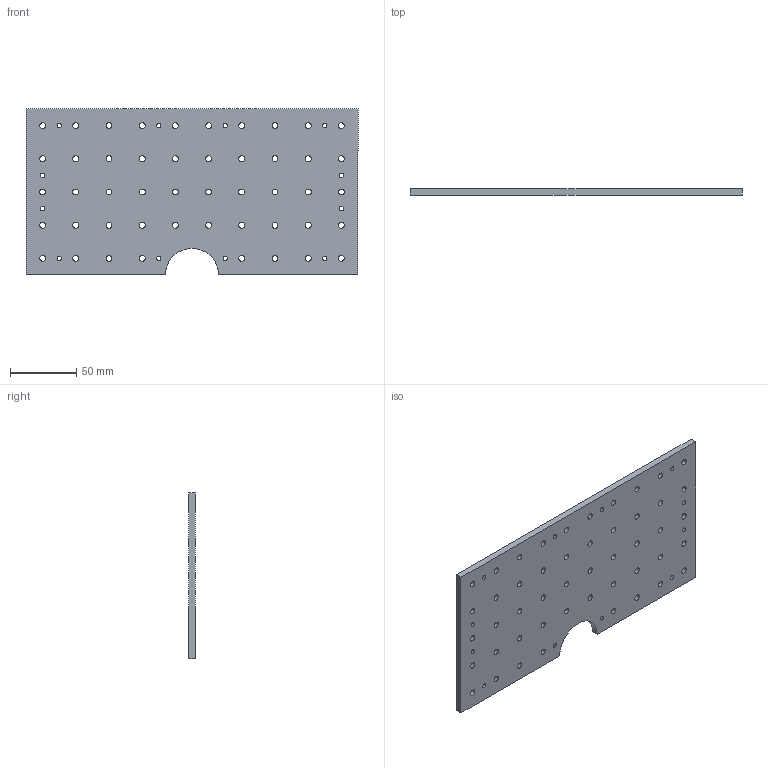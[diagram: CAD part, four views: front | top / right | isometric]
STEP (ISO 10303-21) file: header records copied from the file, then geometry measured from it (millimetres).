
FILE_DESCRIPTION(/* description */ (''),/* implementation_level */ '2;1');
FILE_NAME(/* name */ 'c-10x5-d20-5mm.stp',/* time_stamp */ '2026-04-29T11:40:42+08:00',/* author */ ('32769'),/* organization */ (''),/* preprocessor_version */ 'ST-DEVELOPER v20',/* originating_system */ 'Autodesk Inventor 2025',/* authorisation */ '');
FILE_SCHEMA (('AUTOMOTIVE_DESIGN { 1 0 10303 214 3 1 1 }'));
Length unit declared in the file: millimetre
Products named in the file (1): c-10x5-d20-5mm
Bounding box: 250 x 5 x 125 mm (x, y, z)
Volume: 148778.2 mm3; surface area: 67390.4 mm2
Topology: 1 solids, 1 shells, 68 faces, 198 edges, 132 vertices
Faces by surface type: cylinder 61, plane 7
Full cylindrical faces by diameter (mm): 3.3 x12, 4.5 x48
Entity records: 2607 total; most frequent: DIRECTION 458, CARTESIAN_POINT 399, ORIENTED_EDGE 396, EDGE_CURVE 198, AXIS2_PLACEMENT_3D 191, EDGE_LOOP 188, VERTEX_POINT 132, CIRCLE 122
